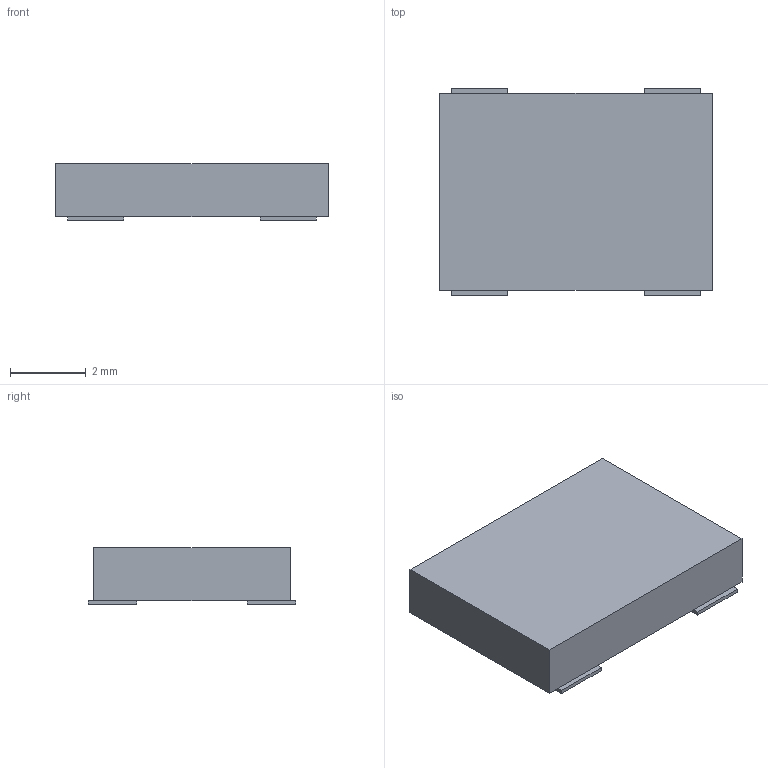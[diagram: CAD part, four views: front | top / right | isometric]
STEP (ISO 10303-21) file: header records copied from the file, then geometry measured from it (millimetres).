
FILE_DESCRIPTION(('FreeCAD Model'),'2;1');
FILE_NAME('/var/www/3D/0T/260643.1.1.stp','2020-04-08T05:30:37',( 'Author'),(''),'Open CASCADE STEP processor 6.9','FreeCAD','Unknown' );
FILE_SCHEMA(('AUTOMOTIVE_DESIGN { 1 0 10303 214 1 1 1 1 }'));
Length unit declared in the file: millimetre
Products named in the file (3): ASSEMBLY; Body; Pins
Assembly tree (2 placements, depth 2):
  ASSEMBLY
    Body
    Pins
Bounding box: 7.2 x 5.48 x 1.5 mm (x, y, z)
Volume: 53.2 mm3; surface area: 127 mm2
Topology: 5 solids, 5 shells, 30 faces, 60 edges, 40 vertices
Faces by surface type: plane 30
Entity records: 1631 total; most frequent: CARTESIAN_POINT 253, DIRECTION 246, LINE 180, VECTOR 180, ORIENTED_EDGE 120, PCURVE 120, DEFINITIONAL_REPRESENTATION 120, EDGE_CURVE 60
